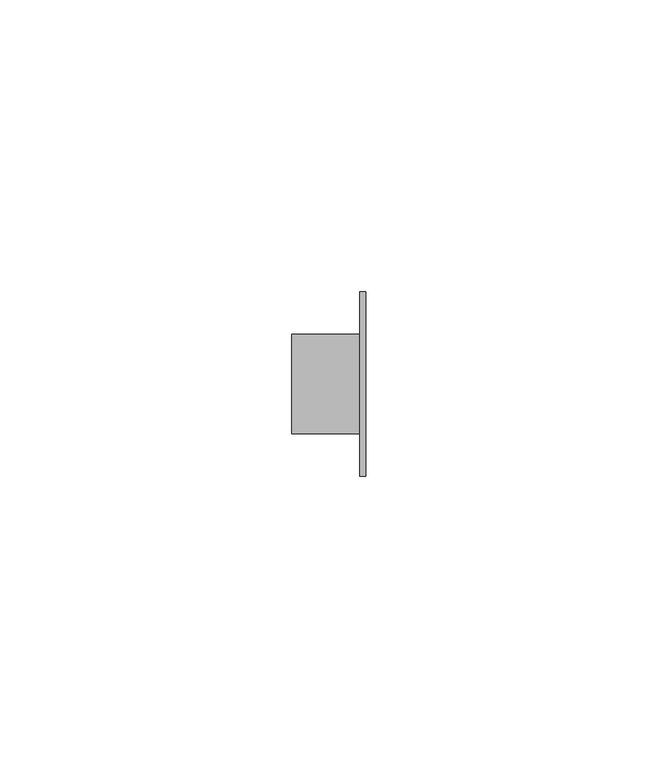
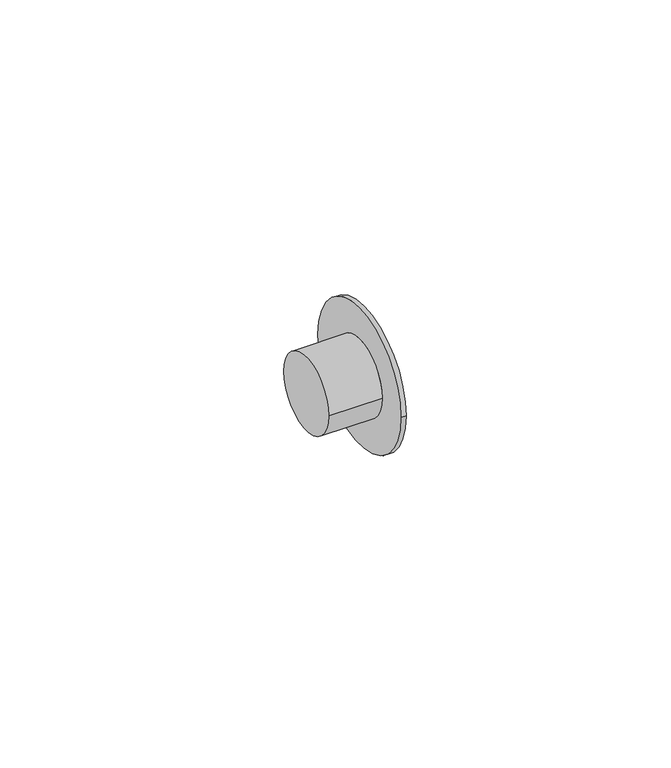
"""IFC4 building model written with IfcOpenShell, lengths in millimetres: pipe fitting geometry, Bucha de redução reta - Soldada - CU : Padrão."""

from ifc_helpers import new_model, si_unit, frame, origin, place, context, project, spatial, circle_curve, source, transform, mapped, element, save
from ifc_brep_helpers import plane_surface, cylinder_surface, advanced_brep


def pipe_fitting_49f59843(model_context):
    return source(origin(), model_context, "Body", "AdvancedBrep", [
        advanced_brep(
        [(0.0, -8.4937, 0.0), (0.0, 8.4937, 0.0), (11.6589, -8.4937, 0.0), (11.6589, 8.4937, 0.0), (12.6589, -15.775, 0.0), (12.6589, 15.775, 0.0), (11.6589, 15.775, 0.0), (11.6589, -15.775, 0.0)],
        [
            (0, 1, circle_curve(frame((0.0, 0.0, 0.0), z_axis=(-1.0, 0.0, 0.0), x_axis=(0.0, 1.0, 0.0)), 8.4937)),
            (1, 0, circle_curve(frame((0.0, 0.0, 0.0), z_axis=(-1.0, 0.0, 0.0), x_axis=(0.0, 1.0, 0.0)), 8.4937)),
            (0, 2),
            (2, 3, circle_curve(frame((11.6589, 0.0, 0.0), z_axis=(-1.0, 0.0, 0.0), x_axis=(0.0, 1.0, 0.0)), 8.4937)),
            (3, 1),
            (3, 2, circle_curve(frame((11.6589, 0.0, 0.0), z_axis=(-1.0, 0.0, 0.0), x_axis=(0.0, 1.0, 0.0)), 8.4937)),
            (4, 5, circle_curve(frame((12.6589, 0.0, 0.0), z_axis=(1.0, 0.0, 0.0), x_axis=(0.0, 1.0, 0.0)), 15.775)),
            (5, 4, circle_curve(frame((12.6589, 0.0, 0.0), z_axis=(1.0, 0.0, 0.0), x_axis=(0.0, 1.0, 0.0)), 15.775)),
            (6, 7, circle_curve(frame((11.6589, 0.0, 0.0), z_axis=(1.0, 0.0, 0.0), x_axis=(0.0, 1.0, 0.0)), 15.775)),
            (7, 4),
            (5, 6),
            (7, 6, circle_curve(frame((11.6589, 0.0, 0.0), z_axis=(1.0, 0.0, 0.0), x_axis=(0.0, 1.0, 0.0)), 15.775)),
        ],
        [
            plane_surface(frame((0.0, 0.0, 0.0), z_axis=(-1.0, 0.0, 0.0), x_axis=(0.0, 0.0, 1.0))),
            cylinder_surface(frame((0.0, 0.0, 0.0), z_axis=(-1.0, 0.0, 0.0), x_axis=(0.0, 1.0, 0.0)), 8.4937),
            plane_surface(frame((12.6589, 0.0, 0.0), z_axis=(1.0, 0.0, 0.0), x_axis=(0.0, 0.0, 1.0))),
            cylinder_surface(frame((11.6589, 0.0, 0.0), z_axis=(-1.0, 0.0, 0.0), x_axis=(0.0, 1.0, 0.0)), 15.775),
            plane_surface(frame((11.6589, 0.0, 0.0), z_axis=(-1.0, 0.0, 0.0), x_axis=(0.0, 0.0, 1.0))),
        ],
        [
            (0, [[1, 2]]),
            (1, [[-1, 3, 4, 5]]),
            (1, [[-2, -5, 6, -3]]),
            (2, [[7, 8]]),
            (3, [[9, 10, -8, 11]]),
            (3, [[12, -11, -7, -10]]),
            (4, [[-9, -12], [-4, -6]]),
        ],
    ),
    ])


if __name__ == "__main__":
    model = new_model("IFC4")
    model_context = context("Model", 3, world=origin())
    ifc_project = project(units=[si_unit("LENGTHUNIT", "METRE", prefix="MILLI")], contexts=[model_context])
    site = spatial("IfcSite", under=ifc_project)
    building = spatial("IfcBuilding", under=site)
    placement = place(None, origin())
    pipe_fitting_shape = pipe_fitting_49f59843(model_context)
    element("IfcPipeFitting", 1, ObjectType="Bucha de redução reta - Soldada - CU : Padrão", at=placement, inside=building, context=model_context, shape_type="MappedRepresentation", body=[
        mapped(pipe_fitting_shape, transform((0.0, 0.0, 0.0), x_axis=(1.0, 0.0, 0.0), y_axis=(0.0, 1.0, 0.0), z_axis=(0.0, 0.0, 1.0))),
    ])
    save(model, "model.ifc")
